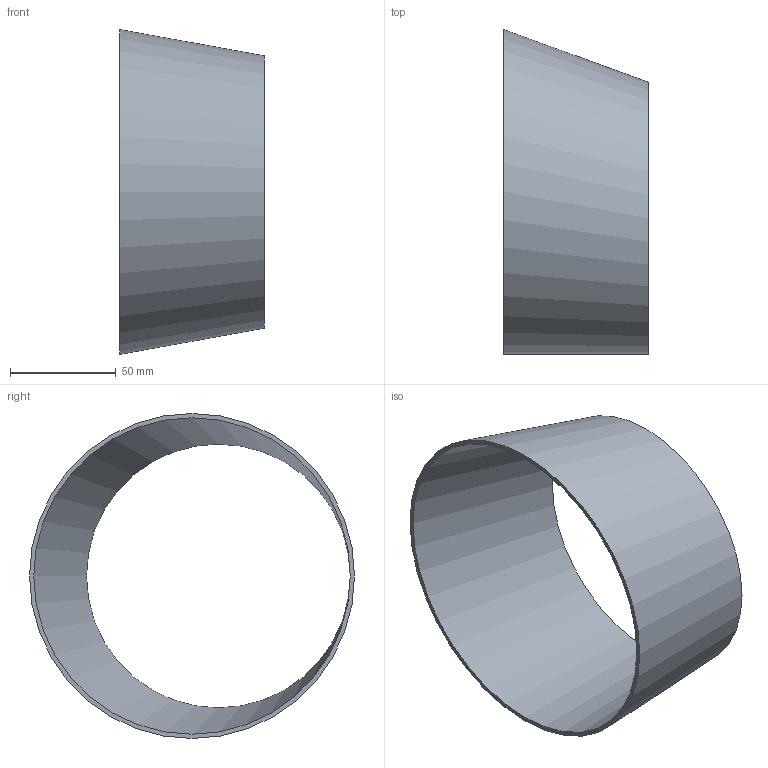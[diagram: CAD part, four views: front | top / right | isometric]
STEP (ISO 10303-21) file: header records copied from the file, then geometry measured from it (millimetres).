
FILE_DESCRIPTION(('FreeCAD Model'),'2;1');
FILE_NAME( '/home/martin/Documents/proyect/accesorios/stp/red-exc_DN150-125.step' ,'2017-12-31T13:05:36',('Author'),(''), 'Open CASCADE STEP processor 6.8','FreeCAD','Unknown');
FILE_SCHEMA(('AUTOMOTIVE_DESIGN_CC2 { 1 2 10303 214 -1 1 5 4 }'));
Length unit declared in the file: millimetre
Products named in the file (1): red-exc_DN150-125
Bounding box: 68.5 x 154 x 154 mm (x, y, z)
Volume: 60040.5 mm3; surface area: 63258.5 mm2
Topology: 1 solids, 1 shells, 4 faces, 6 edges, 4 vertices
Faces by surface type: bspline 2, plane 2
Entity records: 275 total; most frequent: CARTESIAN_POINT 115, DIRECTION 26, ORIENTED_EDGE 12, PCURVE 12, DEFINITIONAL_REPRESENTATION 12, CIRCLE 8, LINE 8, VECTOR 8
